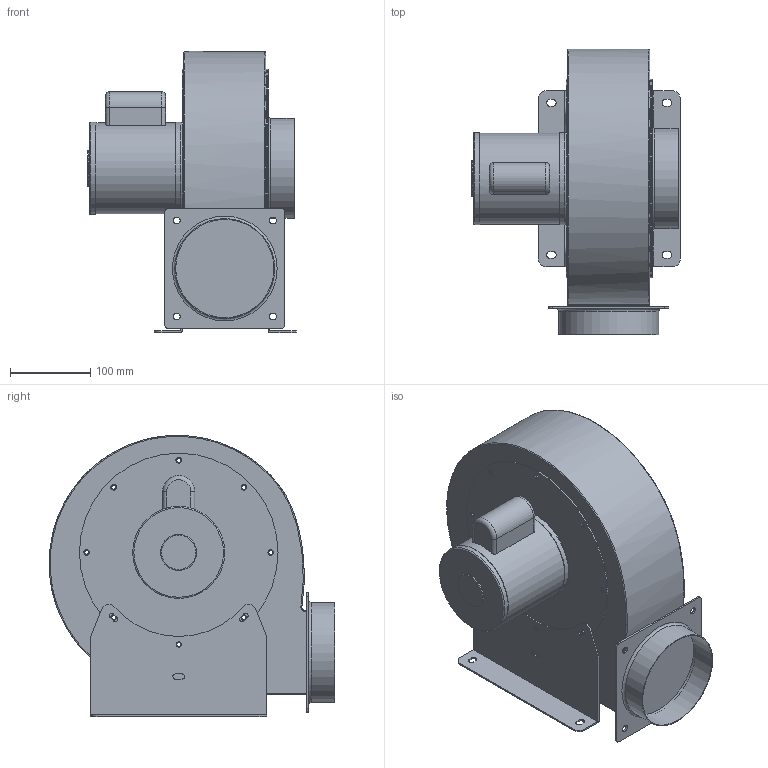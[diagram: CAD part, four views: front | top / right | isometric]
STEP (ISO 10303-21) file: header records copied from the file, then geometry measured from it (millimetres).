
FILE_DESCRIPTION(/* description */ ('Unknown'),/* implementation_level */ '2;1');
FILE_NAME(/* name */ 'CYT210A2PQ-EG 型錄',/* time_stamp */ '2026-05-15T11:09:47+08:00',/* author */ ('Unknown'),/* organization */ ('Unknown'),/* preprocessor_version */ 'ST-DEVELOPER v20',/* originating_system */ 'Solid Edge',/* authorisation */ 'Unknown');
FILE_SCHEMA (('AUTOMOTIVE_DESIGN {1 0 10303 214 3 1 1}'));
Length unit declared in the file: millimetre
Products named in the file (6): CYT210A2PQ-EG 型; CYT210-01G & CYT210-05; CYT210-06VS & JMT210AS2Pa-EG; CYT210-07; CYT210-04; CYT210-08
Assembly tree (6 placements, depth 2):
  CYT210A2PQ-EG 型
    CYT210-01G & CYT210-05
    CYT210-06VS & JMT210AS2Pa-EG
    CYT210-07  x2
    CYT210-04
    CYT210-08
Bounding box: 260.3 x 356.85 x 351.12 mm (x, y, z)
Volume: 6796116 mm3; surface area: 791208.5 mm2
Topology: 6 solids, 6 shells, 177 faces, 463 edges, 306 vertices
Faces by surface type: cylinder 108, plane 53, torus 10, bspline 6
Full cylindrical faces by diameter (mm): 5 x8, 6.5 x18, 7 x8, 8.5 x4, 45 x1, 113.6 x1, 115 x2, 122.8 x2, 124.8 x2, 130.8 x1, 215 x1, 248 x3
Entity records: 5013 total; most frequent: CARTESIAN_POINT 1426, DIRECTION 741, ORIENTED_EDGE 586, AXIS2_PLACEMENT_3D 322, EDGE_LOOP 296, FACE_BOUND 296, EDGE_CURVE 293, VERTEX_POINT 227
